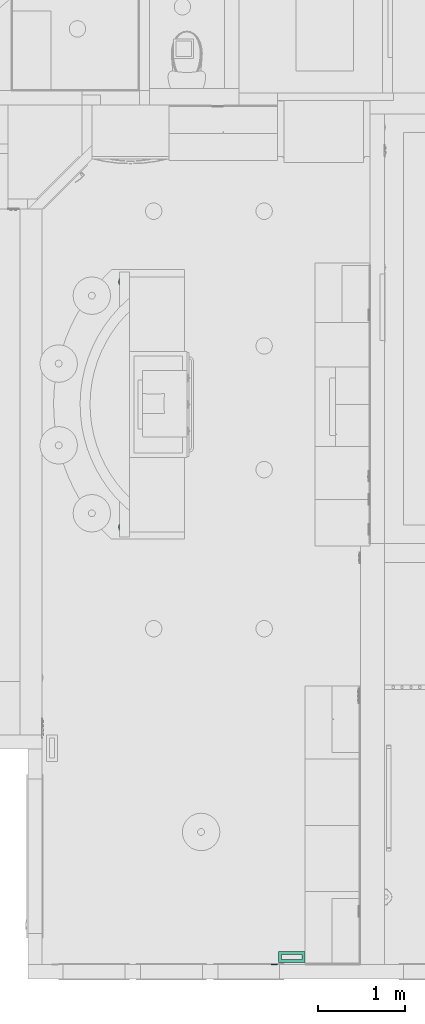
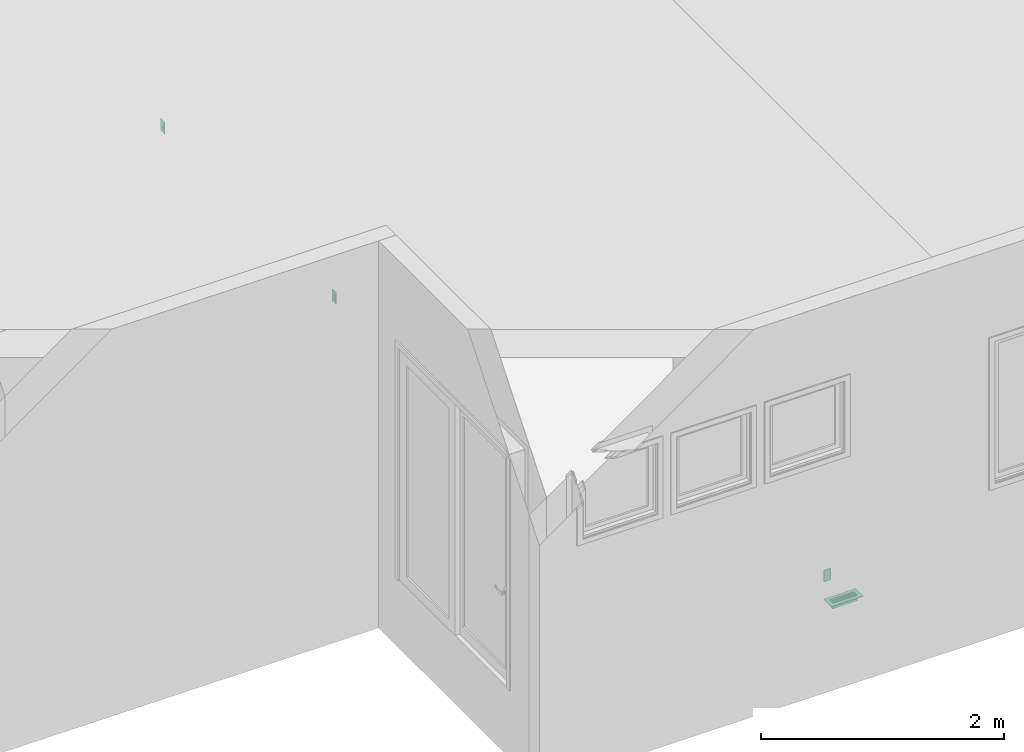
# One storey, part 11 of 103: 3 flow controllers, 1 distribution flow element.
"""IFC2X3 building model written with IfcOpenShell, lengths in inches."""

from ifc_helpers import new_model, entity, si_unit, converted_unit, derived_unit, money_unit, direction, frame, origin_with_axes, place, context, subcontext, project, spatial, open_shell, faceted_brep, surface_model, source, transform, mapped, type_object, element, save


model = new_model("IFC2X3")

# Units and contexts
model_context = context("Model", 3, precision=0.00039370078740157, world=origin_with_axes(), true_north=direction((0.0, 1.0)))
plan_context = context("Plan", 3, precision=0.00039370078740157, world=origin_with_axes(), true_north=direction((0.0, 1.0)))
body_context = subcontext(model_context, "Body", "Model", "MODEL_VIEW")
ifc_project = project(units=[converted_unit("LENGTHUNIT", "INCH", entity("IfcPositiveLengthMeasure", 0.0254), si_unit("LENGTHUNIT", "METRE"), dimensions=[1, 0, 0, 0, 0, 0, 0]), converted_unit("AREAUNIT", "SQUARE_FOOT", entity("IfcPositiveLengthMeasure", 0.09290304), si_unit("AREAUNIT", "SQUARE_METRE"), dimensions=[2, 0, 0, 0, 0, 0, 0]), si_unit("PLANEANGLEUNIT", "RADIAN"), si_unit("SOLIDANGLEUNIT", "STERADIAN"), money_unit("USD"), converted_unit("TIMEUNIT", "Year", entity("IfcTimeMeasure", 31557600.0), si_unit("TIMEUNIT", "SECOND"), dimensions=[0, 0, 1, 0, 0, 0, 0]), si_unit("MASSUNIT", "GRAM", prefix="KILO"), si_unit("THERMODYNAMICTEMPERATUREUNIT", "DEGREE_CELSIUS"), si_unit("LUMINOUSINTENSITYUNIT", "LUMEN"), si_unit("ENERGYUNIT", "JOULE", prefix="MEGA"), derived_unit("SPECIFICHEATCAPACITYUNIT", [(si_unit("ENERGYUNIT", "JOULE"), 1), (si_unit("MASSUNIT", "GRAM", prefix="KILO"), -1), (si_unit("THERMODYNAMICTEMPERATUREUNIT", "KELVIN"), -1)])], contexts=[model_context, plan_context])

# Site, building, storey
site_placement = place(None, origin_with_axes())
site = spatial("IfcSite", under=ifc_project, at=site_placement, Name="Site", CompositionType="ELEMENT")
building_placement = place(site_placement, origin_with_axes())
building = spatial("IfcBuilding", under=site, at=building_placement, Name="Building", CompositionType="ELEMENT")
storey_placement = place(building_placement, frame((0.0, 0.0, 127.9999999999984), z_axis=(0.0, 0.0, 1.0), x_axis=(1.0, 0.0, 0.0)))
storey = spatial("IfcBuildingStorey", under=building, at=storey_placement, Name="Second Floor", CompositionType="ELEMENT", Elevation=128.0)

# Flow controllers
switching_device_type = type_object("IfcSwitchingDeviceType", Name="Outlet 1 US", PredefinedType="NOTDEFINED")
shared_shape_1 = source(origin_with_axes(), body_context, "Body", "Brep", [
    faceted_brep([(0.39370078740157, -0.03444881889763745, -1.18110236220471), (0.5436477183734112, -0.03444881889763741, -0.7086614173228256), (0.5436477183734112, -0.2165354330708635, -0.7086614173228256), (0.39370078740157, -0.2165354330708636, -1.18110236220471), (-0.3937007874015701, -0.03444881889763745, -1.181102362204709), (-0.543647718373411, -0.03444881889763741, -0.7086614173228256), (-0.39370078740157, -0.03444881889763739, -0.2362204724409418), (0.3937007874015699, -0.03444881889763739, -0.2362204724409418), (-0.196850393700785, -0.03444881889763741, -0.7086614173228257), (-0.196850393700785, -0.0344488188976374, -0.4724409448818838), (-0.275590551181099, -0.0344488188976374, -0.4724409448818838), (-0.275590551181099, -0.03444881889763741, -0.7086614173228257), (0.196850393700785, -0.03444881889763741, -0.7086614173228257), (0.275590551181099, -0.03444881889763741, -0.7086614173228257), (0.275590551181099, -0.0344488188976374, -0.4724409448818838), (0.196850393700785, -0.0344488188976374, -0.4724409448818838), (-0.078740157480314, -0.03444881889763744, -1.102362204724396), (0.078740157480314, -0.03444881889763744, -1.102362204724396), (0.078740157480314, -0.03444881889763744, -1.023622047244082), (0.06819097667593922, -0.03444881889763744, -0.9842519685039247), (0.03937007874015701, -0.03444881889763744, -0.9554310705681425), (0.0, -0.03444881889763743, -0.9448818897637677), (-0.03937007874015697, -0.03444881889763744, -0.9554310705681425), (-0.06819097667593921, -0.03444881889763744, -0.9842519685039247), (-0.078740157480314, -0.03444881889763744, -1.023622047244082), (0.3937007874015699, -0.2165354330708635, -0.2362204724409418), (-0.39370078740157, -0.2165354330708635, -0.2362204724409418), (-0.543647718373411, -0.2165354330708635, -0.7086614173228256), (-0.3937007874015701, -0.2165354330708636, -1.181102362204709), (-0.196850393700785, -0.2165354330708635, -0.7086614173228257), (-0.275590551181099, -0.2165354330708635, -0.7086614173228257), (-0.275590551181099, -0.2165354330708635, -0.4724409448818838), (-0.196850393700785, -0.2165354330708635, -0.4724409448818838), (0.196850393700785, -0.2165354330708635, -0.7086614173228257), (0.196850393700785, -0.2165354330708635, -0.4724409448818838), (0.275590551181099, -0.2165354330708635, -0.4724409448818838), (0.275590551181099, -0.2165354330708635, -0.7086614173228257), (-0.078740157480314, -0.2165354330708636, -1.102362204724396), (-0.078740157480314, -0.2165354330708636, -1.023622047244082), (-0.06819097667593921, -0.2165354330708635, -0.9842519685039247), (-0.03937007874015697, -0.2165354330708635, -0.9554310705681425), (0.0, -0.2165354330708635, -0.9448818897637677), (0.03937007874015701, -0.2165354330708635, -0.9554310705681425), (0.06819097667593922, -0.2165354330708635, -0.9842519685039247), (0.078740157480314, -0.2165354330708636, -1.023622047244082), (0.078740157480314, -0.2165354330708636, -1.102362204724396)], [[[0, 1, 2, 3]], [[0, 4, 5, 6, 7, 1], [8, 9, 10, 11], [12, 13, 14, 15], [16, 17, 18, 19, 20, 21, 22, 23, 24]], [[1, 7, 25, 2]], [[3, 2, 25, 26, 27, 28], [29, 30, 31, 32], [33, 34, 35, 36], [37, 38, 39, 40, 41, 42, 43, 44, 45]], [[4, 0, 3, 28]], [[5, 4, 28, 27]], [[6, 5, 27, 26]], [[7, 6, 26, 25]], [[9, 8, 29, 32]], [[10, 9, 32, 31]], [[11, 10, 31, 30]], [[8, 11, 30, 29]], [[13, 12, 33, 36]], [[14, 13, 36, 35]], [[15, 14, 35, 34]], [[12, 15, 34, 33]], [[17, 16, 37, 45]], [[18, 17, 45, 44]], [[19, 18, 44, 43]], [[20, 19, 43, 42]], [[21, 20, 42, 41]], [[22, 21, 41, 40]], [[23, 22, 40, 39]], [[24, 23, 39, 38]], [[16, 24, 38, 37]]]),
    faceted_brep([(0.39370078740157, -0.03444881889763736, 0.2362204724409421), (0.5436477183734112, -0.03444881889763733, 0.7086614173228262), (0.5436477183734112, -0.2165354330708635, 0.7086614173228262), (0.39370078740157, -0.2165354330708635, 0.2362204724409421), (-0.3937007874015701, -0.03444881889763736, 0.2362204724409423), (-0.543647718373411, -0.03444881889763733, 0.7086614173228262), (-0.39370078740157, -0.0344488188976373, 1.18110236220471), (0.3937007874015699, -0.0344488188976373, 1.18110236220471), (-0.196850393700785, -0.03444881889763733, 0.7086614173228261), (-0.196850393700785, -0.03444881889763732, 0.944881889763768), (-0.275590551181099, -0.03444881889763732, 0.944881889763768), (-0.275590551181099, -0.03444881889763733, 0.7086614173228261), (0.196850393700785, -0.03444881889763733, 0.7086614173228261), (0.275590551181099, -0.03444881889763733, 0.7086614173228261), (0.275590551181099, -0.03444881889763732, 0.944881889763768), (0.196850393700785, -0.03444881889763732, 0.944881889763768), (-0.078740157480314, -0.03444881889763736, 0.3149606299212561), (0.078740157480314, -0.03444881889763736, 0.3149606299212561), (0.078740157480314, -0.03444881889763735, 0.3937007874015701), (0.06819097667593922, -0.03444881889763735, 0.4330708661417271), (0.03937007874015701, -0.03444881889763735, 0.4618917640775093), (0.0, -0.03444881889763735, 0.472440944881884), (-0.03937007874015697, -0.03444881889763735, 0.4618917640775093), (-0.06819097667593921, -0.03444881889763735, 0.4330708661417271), (-0.078740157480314, -0.03444881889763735, 0.3937007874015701), (0.3937007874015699, -0.2165354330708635, 1.18110236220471), (-0.39370078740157, -0.2165354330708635, 1.18110236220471), (-0.543647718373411, -0.2165354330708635, 0.7086614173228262), (-0.3937007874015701, -0.2165354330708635, 0.2362204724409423), (-0.196850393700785, -0.2165354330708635, 0.7086614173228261), (-0.275590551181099, -0.2165354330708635, 0.7086614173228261), (-0.275590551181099, -0.2165354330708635, 0.944881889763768), (-0.196850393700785, -0.2165354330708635, 0.944881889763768), (0.196850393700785, -0.2165354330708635, 0.7086614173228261), (0.196850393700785, -0.2165354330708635, 0.944881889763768), (0.275590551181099, -0.2165354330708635, 0.944881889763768), (0.275590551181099, -0.2165354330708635, 0.7086614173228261), (-0.078740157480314, -0.2165354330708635, 0.3149606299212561), (-0.078740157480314, -0.2165354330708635, 0.3937007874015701), (-0.06819097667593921, -0.2165354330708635, 0.4330708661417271), (-0.03937007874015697, -0.2165354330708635, 0.4618917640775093), (0.0, -0.2165354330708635, 0.472440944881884), (0.03937007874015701, -0.2165354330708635, 0.4618917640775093), (0.06819097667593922, -0.2165354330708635, 0.4330708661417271), (0.078740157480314, -0.2165354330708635, 0.3937007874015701), (0.078740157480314, -0.2165354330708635, 0.3149606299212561)], [[[0, 1, 2, 3]], [[0, 4, 5, 6, 7, 1], [8, 9, 10, 11], [12, 13, 14, 15], [16, 17, 18, 19, 20, 21, 22, 23, 24]], [[1, 7, 25, 2]], [[3, 2, 25, 26, 27, 28], [29, 30, 31, 32], [33, 34, 35, 36], [37, 38, 39, 40, 41, 42, 43, 44, 45]], [[4, 0, 3, 28]], [[5, 4, 28, 27]], [[6, 5, 27, 26]], [[7, 6, 26, 25]], [[9, 8, 29, 32]], [[10, 9, 32, 31]], [[11, 10, 31, 30]], [[8, 11, 30, 29]], [[13, 12, 33, 36]], [[14, 13, 36, 35]], [[15, 14, 35, 34]], [[12, 15, 34, 33]], [[17, 16, 37, 45]], [[18, 17, 45, 44]], [[19, 18, 44, 43]], [[20, 19, 43, 42]], [[21, 20, 42, 41]], [[22, 21, 41, 40]], [[23, 22, 40, 39]], [[24, 23, 39, 38]], [[16, 24, 38, 37]]]),
    faceted_brep([(-1.343503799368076, -0.1377952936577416, -2.327755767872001), (1.343503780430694, -0.1377952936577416, -2.327755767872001), (1.343503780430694, -0.1377952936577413, 2.327755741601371), (-1.343503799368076, -0.1377952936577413, 2.327755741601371), (0.39370078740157, -0.1377952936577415, -1.18110236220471), (-0.3937007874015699, -0.1377952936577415, -1.181102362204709), (-0.5436477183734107, -0.1377952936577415, -0.7086614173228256), (-0.39370078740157, -0.1377952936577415, -0.2362204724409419), (0.3937007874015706, -0.1377952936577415, -0.2362204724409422), (0.5436477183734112, -0.1377952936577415, -0.7086614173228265), (-0.39370078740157, -0.1377952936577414, 1.18110236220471), (0.3937007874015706, -0.1377952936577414, 1.18110236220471), (0.5436477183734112, -0.1377952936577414, 0.7086614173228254), (0.39370078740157, -0.1377952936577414, 0.236220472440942), (-0.3937007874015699, -0.1377952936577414, 0.2362204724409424), (-0.5436477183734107, -0.1377952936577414, 0.7086614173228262), (-1.352419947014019, -0.1366214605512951, -2.336671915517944), (1.352419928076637, -0.1366214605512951, -2.336671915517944), (1.352419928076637, -0.1366214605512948, 2.336671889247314), (-1.352419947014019, -0.1366214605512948, 2.336671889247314), (0.39370078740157, -0.03444881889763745, -1.18110236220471), (-0.3937007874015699, -0.03444881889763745, -1.181102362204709), (-0.5436477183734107, -0.03444881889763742, -0.7086614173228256), (-0.39370078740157, -0.03444881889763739, -0.2362204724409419), (0.3937007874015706, -0.03444881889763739, -0.2362204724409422), (0.5436477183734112, -0.03444881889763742, -0.7086614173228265), (-0.39370078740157, -0.0344488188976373, 1.18110236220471), (0.3937007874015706, -0.0344488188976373, 1.18110236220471), (0.5436477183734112, -0.03444881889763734, 0.7086614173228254), (0.39370078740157, -0.03444881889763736, 0.236220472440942), (-0.3937007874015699, -0.03444881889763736, 0.2362204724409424), (-0.5436477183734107, -0.03444881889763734, 0.7086614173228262), (-1.36786294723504, -0.1277054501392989, -2.352114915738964), (1.367862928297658, -0.1277054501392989, -2.352114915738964), (1.367862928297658, -0.1277054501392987, 2.352114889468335), (-1.36786294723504, -0.1277054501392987, 2.352114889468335), (-1.376778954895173, -0.1122624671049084, -2.361030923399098), (1.376778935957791, -0.1122624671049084, -2.361030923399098), (1.376778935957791, -0.1122624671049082, 2.361030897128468), (-1.376778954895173, -0.1122624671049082, 2.361030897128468), (-1.377952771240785, -0.1033464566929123, -2.362204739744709), (1.377952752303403, -0.1033464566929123, -2.362204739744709), (1.377952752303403, -0.103346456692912, 2.36220471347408), (-1.377952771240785, -0.103346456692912, 2.36220471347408), (-1.377952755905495, 0.0, -2.36220472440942), (1.377952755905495, 0.0, -2.36220472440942), (1.377952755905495, 0.0, 2.36220472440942), (-1.377952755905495, 0.0, 2.36220472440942)], [[[0, 1, 2, 3], [4, 5, 6, 7, 8, 9], [10, 11, 12, 13, 14, 15]], [[1, 0, 16, 17]], [[2, 1, 17, 18]], [[3, 2, 18, 19]], [[0, 3, 19, 16]], [[4, 20, 21, 5]], [[5, 21, 22, 6]], [[6, 22, 23, 7]], [[7, 23, 24, 8]], [[8, 24, 25, 9]], [[9, 25, 20, 4]], [[11, 10, 26, 27]], [[12, 11, 27, 28]], [[13, 12, 28, 29]], [[14, 13, 29, 30]], [[15, 14, 30, 31]], [[10, 15, 31, 26]], [[17, 16, 32, 33]], [[18, 17, 33, 34]], [[19, 18, 34, 35]], [[16, 19, 35, 32]], [[22, 21, 20, 25, 24, 23]], [[28, 27, 26, 31, 30, 29]], [[33, 32, 36, 37]], [[34, 33, 37, 38]], [[35, 34, 38, 39]], [[32, 35, 39, 36]], [[37, 36, 40, 41]], [[38, 37, 41, 42]], [[39, 38, 42, 43]], [[36, 39, 43, 40]], [[41, 40, 44, 45]], [[42, 41, 45, 46]], [[43, 42, 46, 47]], [[40, 43, 47, 44]], [[46, 45, 44, 47]]]),
])
for number, where, z_axis, x_axis, name in (
    (1, (111.5001396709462, 6.500000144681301, 13.99803149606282), (0.0, 0.0, 1.0), (-0.9999999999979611, -2.019381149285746e-06, 0.0), "FU - 029"),
    (2, (41.49985863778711, 204.5029704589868, 28.49803149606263), (0.0, 0.0, 1.0), (2.019381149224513e-06, -0.9999999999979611, 0.0), "FU - 029"),
    (3, (41.49963450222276, 315.4951743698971, 28.49803149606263), (0.0, 0.0, 1.0), (2.019381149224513e-06, -0.9999999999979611, 0.0), "FU - 029"),
):
    element("IfcFlowController", number, at=place(storey_placement, frame(where, z_axis=z_axis, x_axis=x_axis)), inside=storey, type_object=switching_device_type, Name=name, context=body_context, shape_type="MappedRepresentation", body=[
        mapped(shared_shape_1, transform((0.0, 0.0, 0.0))),
    ])

# Distribution flow element
valve_type = type_object("IfcValveType", Name="Rect Floor Register", PredefinedType="NOTDEFINED")
shared_shape_2 = source(origin_with_axes(), body_context, "Body", "SurfaceModel", [
    faceted_brep([(6.002952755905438, 2.502952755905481, 0.0), (-6.002952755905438, 2.502952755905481, 0.0), (-6.002952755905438, 2.502952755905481, 0.196850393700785), (6.002952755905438, 2.502952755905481, 0.196850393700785), (6.002952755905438, -2.502952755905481, 0.0), (-6.002952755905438, -2.502952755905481, 0.0), (4.624999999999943, 1.124999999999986, 0.0), (-4.624999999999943, 1.124999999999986, 0.0), (-4.624999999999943, -1.124999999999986, 0.0), (4.624999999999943, -1.124999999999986, 0.0), (-6.002952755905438, -2.502952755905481, 0.196850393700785), (6.002952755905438, -2.502952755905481, 0.196850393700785), (4.624999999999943, 1.124999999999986, 0.196850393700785), (4.624999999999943, -1.124999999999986, 0.196850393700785), (-4.624999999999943, -1.124999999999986, 0.196850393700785), (-4.624999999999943, 1.124999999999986, 0.196850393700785)], [[[0, 1, 2, 3]], [[0, 4, 5, 1], [6, 7, 8, 9]], [[1, 5, 10, 2]], [[3, 2, 10, 11], [12, 13, 14, 15]], [[4, 0, 3, 11]], [[5, 4, 11, 10]], [[7, 6, 12, 15]], [[8, 7, 15, 14]], [[9, 8, 14, 13]], [[6, 9, 13, 12]]]),
    surface_model("IfcShellBasedSurfaceModel", [(-4.585629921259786, 0.984251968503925, -0.78740157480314), (4.585629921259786, 0.984251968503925, -0.78740157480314), (4.585629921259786, 0.984251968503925, 0.196850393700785), (-4.585629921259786, 0.984251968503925, 0.196850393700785)], [open_shell([[[0, 1, 2, 3]]])]),
    surface_model("IfcShellBasedSurfaceModel", [(-4.585629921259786, 0.0, -0.78740157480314), (4.585629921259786, 0.0, -0.78740157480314), (4.585629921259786, 0.0, 0.196850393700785), (-4.585629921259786, 0.0, 0.196850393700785)], [open_shell([[[0, 1, 2, 3]]])]),
    surface_model("IfcShellBasedSurfaceModel", [(-4.585629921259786, -0.984251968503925, -0.78740157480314), (4.585629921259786, -0.984251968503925, -0.78740157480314), (4.585629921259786, -0.984251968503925, 0.196850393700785), (-4.585629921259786, -0.984251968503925, 0.196850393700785)], [open_shell([[[0, 1, 2, 3]]])]),
    surface_model("IfcShellBasedSurfaceModel", [(4.429133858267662, -1.085629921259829, -0.78740157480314), (4.429133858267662, 1.085629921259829, -0.78740157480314), (4.429133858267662, 1.085629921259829, 0.196850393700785), (4.429133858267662, -1.085629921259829, 0.196850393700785)], [open_shell([[[0, 1, 2, 3]]])]),
    surface_model("IfcShellBasedSurfaceModel", [(3.444881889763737, -1.085629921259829, -0.78740157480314), (3.444881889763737, 1.085629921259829, -0.78740157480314), (3.444881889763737, 1.085629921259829, 0.196850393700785), (3.444881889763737, -1.085629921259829, 0.196850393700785)], [open_shell([[[0, 1, 2, 3]]])]),
    surface_model("IfcShellBasedSurfaceModel", [(2.460629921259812, -1.085629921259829, -0.78740157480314), (2.460629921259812, 1.085629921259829, -0.78740157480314), (2.460629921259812, 1.085629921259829, 0.196850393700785), (2.460629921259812, -1.085629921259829, 0.196850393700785)], [open_shell([[[0, 1, 2, 3]]])]),
    surface_model("IfcShellBasedSurfaceModel", [(1.476377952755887, -1.085629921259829, -0.78740157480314), (1.476377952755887, 1.085629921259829, -0.78740157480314), (1.476377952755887, 1.085629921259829, 0.196850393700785), (1.476377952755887, -1.085629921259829, 0.196850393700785)], [open_shell([[[0, 1, 2, 3]]])]),
    surface_model("IfcShellBasedSurfaceModel", [(0.4921259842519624, -1.085629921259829, -0.78740157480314), (0.4921259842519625, 1.085629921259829, -0.78740157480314), (0.4921259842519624, 1.085629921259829, 0.196850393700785), (0.4921259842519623, -1.085629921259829, 0.196850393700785)], [open_shell([[[0, 1, 2, 3]]])]),
    surface_model("IfcShellBasedSurfaceModel", [(-0.4921259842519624, -1.085629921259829, -0.78740157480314), (-0.4921259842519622, 1.085629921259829, -0.78740157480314), (-0.4921259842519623, 1.085629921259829, 0.196850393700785), (-0.4921259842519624, -1.085629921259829, 0.196850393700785)], [open_shell([[[0, 1, 2, 3]]])]),
    surface_model("IfcShellBasedSurfaceModel", [(-1.476377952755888, -1.085629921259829, -0.78740157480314), (-1.476377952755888, 1.085629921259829, -0.78740157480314), (-1.476377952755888, 1.085629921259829, 0.196850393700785), (-1.476377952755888, -1.085629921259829, 0.196850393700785)], [open_shell([[[0, 1, 2, 3]]])]),
    surface_model("IfcShellBasedSurfaceModel", [(-2.460629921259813, -1.085629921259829, -0.78740157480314), (-2.460629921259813, 1.085629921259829, -0.78740157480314), (-2.460629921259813, 1.085629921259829, 0.196850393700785), (-2.460629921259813, -1.085629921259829, 0.196850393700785)], [open_shell([[[0, 1, 2, 3]]])]),
    surface_model("IfcShellBasedSurfaceModel", [(-3.444881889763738, -1.085629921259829, -0.78740157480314), (-3.444881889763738, 1.085629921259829, -0.78740157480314), (-3.444881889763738, 1.085629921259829, 0.196850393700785), (-3.444881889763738, -1.085629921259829, 0.196850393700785)], [open_shell([[[0, 1, 2, 3]]])]),
    surface_model("IfcShellBasedSurfaceModel", [(-4.429133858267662, -1.085629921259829, -0.78740157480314), (-4.429133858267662, 1.085629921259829, -0.78740157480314), (-4.429133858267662, 1.085629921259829, 0.196850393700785), (-4.429133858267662, -1.085629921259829, 0.196850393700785)], [open_shell([[[0, 1, 2, 3]]])]),
    surface_model("IfcShellBasedSurfaceModel", [(-4.624999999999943, -1.124999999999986, 0.0), (-4.624999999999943, 1.124999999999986, 0.0), (-4.624999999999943, 1.124999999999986, -1.999999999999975), (-4.624999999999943, -1.124999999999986, -1.999999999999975), (4.624999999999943, 1.124999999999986, 0.0), (4.624999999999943, 1.124999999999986, -1.999999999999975), (4.624999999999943, -1.124999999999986, 0.0), (4.624999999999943, -1.124999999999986, -1.999999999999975)], [open_shell([[[0, 1, 2, 3]], [[1, 4, 5, 2]], [[6, 0, 3, 7]], [[4, 6, 7, 5]]])]),
])
distribution_flow_element_placement = place(storey_placement, frame((119.4965646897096, 10.00001629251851, 0.0), z_axis=(0.0, 0.0, 1.0), x_axis=(0.9999999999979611, 2.01938114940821e-06, 0.0)))
element("IfcDistributionFlowElement", 4, at=distribution_flow_element_placement, inside=storey, type_object=valve_type, Name="FU - 027", context=body_context, shape_type="MappedRepresentation", body=[
    mapped(shared_shape_2, transform((0.0, 0.0, 0.0))),
])

save(model, "model.ifc")
